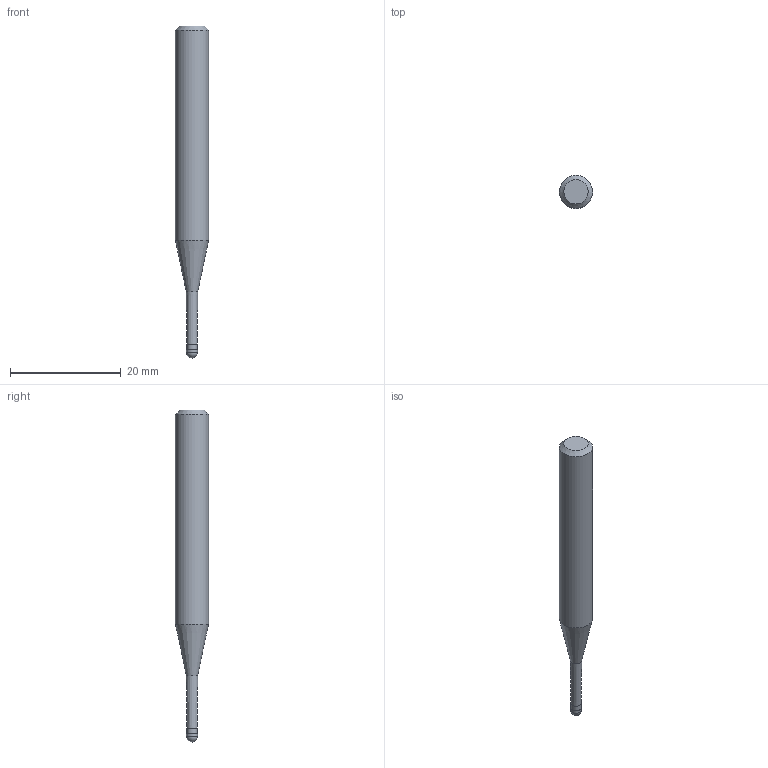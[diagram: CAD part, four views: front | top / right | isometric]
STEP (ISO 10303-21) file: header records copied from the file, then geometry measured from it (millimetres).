
FILE_DESCRIPTION((''),'2;1');
FILE_NAME('C:\Users\nsx150\AppData\Local\Temp\Mastercam 2021\E0ENTZRV18\TEMP.step','2021-09-02T09:56:38',(''),(''),'STEP Write','Mastercam 2021 ... CNC Software, Inc.','');
FILE_SCHEMA(('AUTOMOTIVE_DESIGN'));
Length unit declared in the file: millimetre
Products named in the file (1): None
Bounding box: 6 x 6 x 60 mm (x, y, z)
Volume: 1252.6 mm3; surface area: 948.6 mm2
Topology: 2 solids, 2 shells, 10 faces, 16 edges, 9 vertices
Faces by surface type: plane 3, cylinder 3, cone 3, sphere 1
Full cylindrical faces by diameter (mm): 1.875 x1, 2 x1, 6 x1
Entity records: 232 total; most frequent: DIRECTION 40, CARTESIAN_POINT 28, AXIS2_PLACEMENT_3D 20, ORIENTED_EDGE 16, EDGE_LOOP 16, STYLED_ITEM 13, ADVANCED_FACE 10, FACE_BOUND 9
